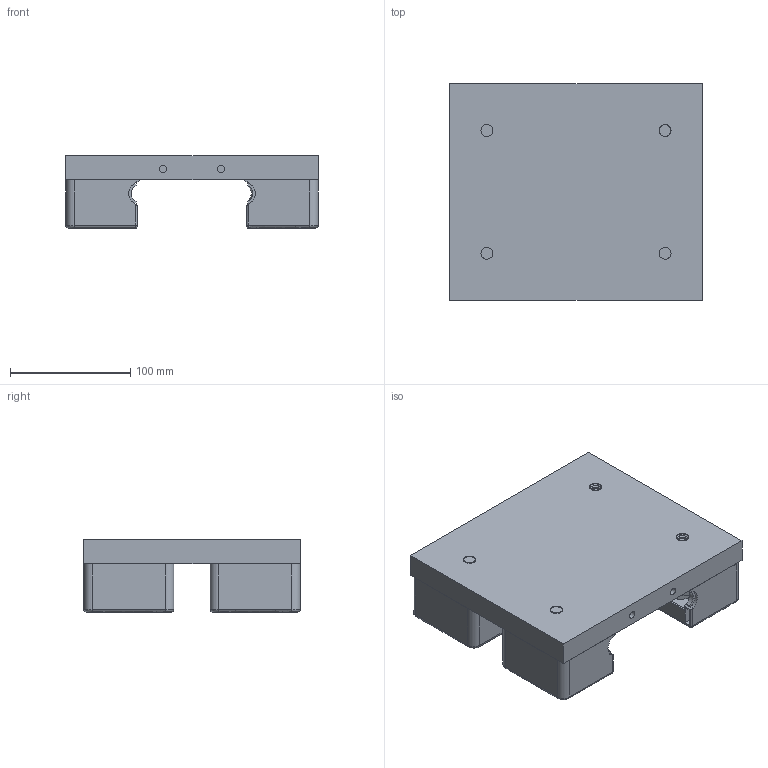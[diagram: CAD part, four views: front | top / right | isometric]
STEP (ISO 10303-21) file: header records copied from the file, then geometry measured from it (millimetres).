
FILE_DESCRIPTION((''),'2;1');
FILE_NAME('C:\Documents and Settings\Administrator\My Documents\Andys Backup Data\ANDY''S INVENTOR\INVENTOR LIBRARIES\MINITEC INVENTOR LIBRARIES\READY FOR USE MODULES LR\A PACKED FILES\STEP FILES\28.0810 SLIDE LR16-45.stp','2010-07-01T09:27:07',('Administrator'),(''),'Autodesk Inventor 2009','Autodesk Inventor 2009','');
FILE_SCHEMA(('CONFIG_CONTROL_DESIGN'));
Length unit declared in the file: millimetre
Products named in the file (10): 28.0810 SLIDE LR16-45; 28.0810 SLIDE LR16-45 PLATE; 21.1257 ECCENTRIC BUSH M12X40 SCREW; 28.0813 ECCENTRIC BUSH LR 16; 28.0814 BOLT CONCENTRIC LR 16; 28.0815 END CAP LR 16; 28.0815 END CAP LR16 FELT; 21.1219 M5X45; 50.1726 BALL BEARING LR 16
Assembly tree (20 placements, depth 3):
  28.0810 SLIDE LR16-45
    28.0810 SLIDE LR16-45 PLATE
    21.1257 ECCENTRIC BUSH M12X40 SCREW  x2
    28.0813 ECCENTRIC BUSH LR 16  x2
    28.0814 BOLT CONCENTRIC LR 16  x2
    28.0815 END CAP LR 16  x4
      28.0815 END CAP LR 16
      28.0815 END CAP LR16 FELT
      21.1219 M5X45
    50.1726 BALL BEARING LR 16  x4
Bounding box: 210 x 180 x 60 mm (x, y, z)
Volume: 1117361.9 mm3; surface area: 299385.8 mm2
Topology: 31 solids, 31 shells, 1134 faces, 2696 edges, 1710 vertices
Faces by surface type: bspline 476, plane 310, cone 194, cylinder 132, torus 22
Full cylindrical faces by diameter (mm): 2 x4, 5 x12, 5.5 x4, 6 x8, 8.5 x8, 10 x4, 12 x2, 13.5 x2, 18 x2, 20 x6, 27 x8, 42 x8, 46 x4, 52 x8
Entity records: 12584 total; most frequent: CARTESIAN_POINT 3898, DIRECTION 1626, ORIENTED_EDGE 1518, EDGE_CURVE 759, EDGE_LOOP 700, AXIS2_PLACEMENT_3D 621, VERTEX_POINT 579, FACE_OUTER_BOUND 438
